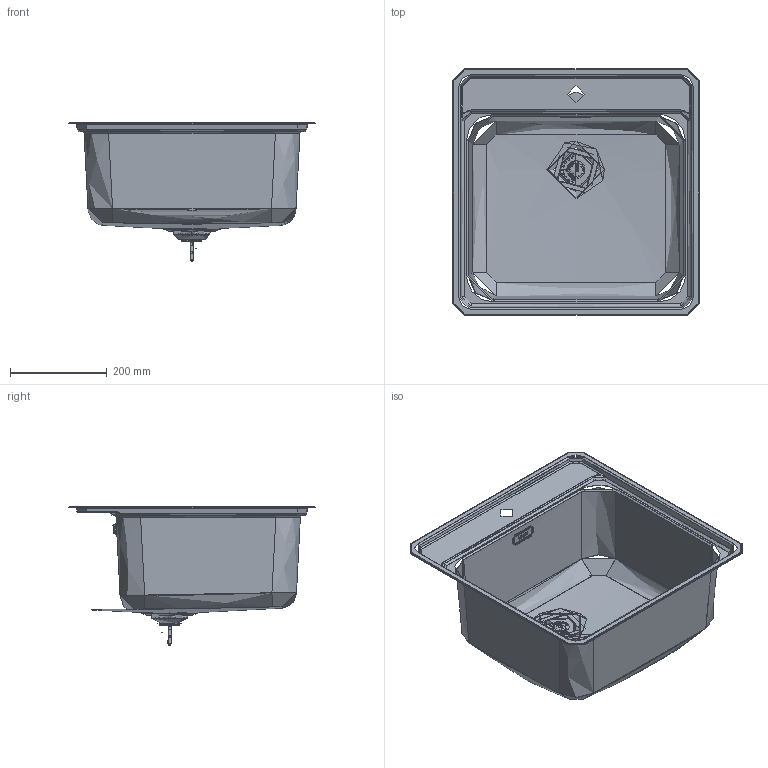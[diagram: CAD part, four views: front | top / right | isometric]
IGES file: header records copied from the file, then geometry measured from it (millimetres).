
Global section: file name: F:\_CONVERSIONE_CAD_2024_2025\03_3D kits new\09_Sinks\3D001_Sinks_Bell_BCX-610-51\3D001_Sinks_Bell_BCX-610-51.igs; native system: Rhinoceros ( Jan  9 2024 ); preprocessor: Trout Lake IGES 012 Jan  9 2024; date: 240201.101043; units: millimetre
Bounding box: 510 x 510 x 286.6 mm (x, y, z)
Surface area: 1122766.4 mm2 (no closed solid volume)
Topology: 0 solids, 0 shells, 1575 faces, 9728 edges, 9684 vertices
Faces by surface type: bspline 1575
